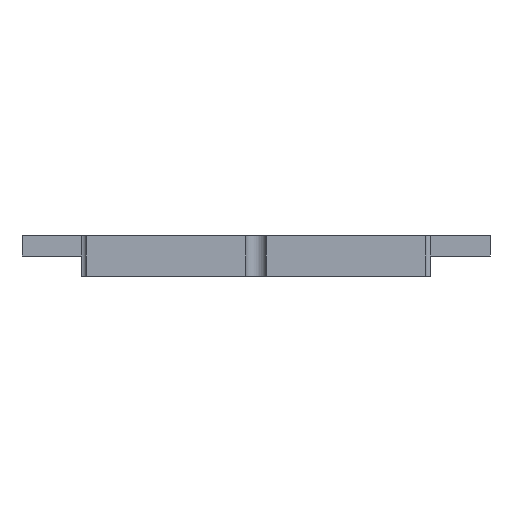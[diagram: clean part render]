
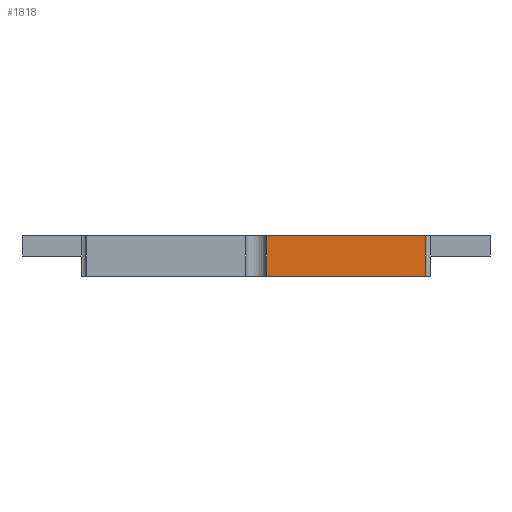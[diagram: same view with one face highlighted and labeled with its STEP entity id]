
A CAD part, front view. The second image highlights one B-rep face of the part: STEP entity #1818.
In plain terms, the highlighted planar face has unit normal (0, -1, 0).
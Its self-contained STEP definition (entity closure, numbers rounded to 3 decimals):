
#44 = EDGE_CURVE ( 'NONE', #1125, #1079, #2046, .T. ) ;
#94 = EDGE_CURVE ( 'NONE', #1053, #1079, #1528, .T. ) ;
#128 = EDGE_CURVE ( 'NONE', #1053, #1031, #1881, .T. ) ;
#166 = EDGE_CURVE ( 'NONE', #1125, #1031, #1626, .T. ) ;
#298 = CARTESIAN_POINT ( 'NONE',  ( 1., 1.2, 2. ) ) ;
#311 = DIRECTION ( 'NONE',  ( 0., 0., -1. ) ) ;
#385 = DIRECTION ( 'NONE',  ( -1., 0., 0. ) ) ;
#398 = CARTESIAN_POINT ( 'NONE',  ( -17.1, 1.2, -2. ) ) ;
#412 = CARTESIAN_POINT ( 'NONE',  ( 1., 1.2, -2. ) ) ;
#417 = CARTESIAN_POINT ( 'NONE',  ( 1., 1.2, 2. ) ) ;
#466 = CARTESIAN_POINT ( 'NONE',  ( 16.6, 1.2, -2. ) ) ;
#495 = CARTESIAN_POINT ( 'NONE',  ( 16.6, 1.2, 2. ) ) ;
#572 = PLANE ( 'NONE',  #1760 ) ;
#575 = CARTESIAN_POINT ( 'NONE',  ( 17.1, 1.2, 2. ) ) ;
#576 = DIRECTION ( 'NONE',  ( -1., 0., 0. ) ) ;
#607 = DIRECTION ( 'NONE',  ( 0., 1., 0. ) ) ;
#860 = CARTESIAN_POINT ( 'NONE',  ( 16.6, 1.2, -2. ) ) ;
#866 = DIRECTION ( 'NONE',  ( 0., 0., 1. ) ) ;
#982 = CARTESIAN_POINT ( 'NONE',  ( 17.1, 1.2, 2. ) ) ;
#996 = DIRECTION ( 'NONE',  ( 1., 0., 0. ) ) ;
#1031 = VERTEX_POINT ( 'NONE', #412 ) ;
#1052 = EDGE_LOOP ( 'NONE', ( #1298, #1327, #1315, #1336 ) ) ;
#1053 = VERTEX_POINT ( 'NONE', #417 ) ;
#1079 = VERTEX_POINT ( 'NONE', #495 ) ;
#1125 = VERTEX_POINT ( 'NONE', #466 ) ;
#1298 = ORIENTED_EDGE ( 'NONE', *, *, #166, .F. ) ;
#1315 = ORIENTED_EDGE ( 'NONE', *, *, #94, .F. ) ;
#1327 = ORIENTED_EDGE ( 'NONE', *, *, #44, .T. ) ;
#1336 = ORIENTED_EDGE ( 'NONE', *, *, #128, .T. ) ;
#1518 = VECTOR ( 'NONE', #996, 1000. ) ;
#1528 = LINE ( 'NONE', #982, #1518 ) ;
#1626 = LINE ( 'NONE', #398, #1628 ) ;
#1628 = VECTOR ( 'NONE', #385, 1000. ) ;
#1694 = FACE_OUTER_BOUND ( 'NONE', #1052, .T. ) ;
#1760 = AXIS2_PLACEMENT_3D ( 'NONE', #575, #607, #576 ) ;
#1818 = ADVANCED_FACE ( 'NONE', ( #1694 ), #572, .F. ) ;
#1881 = LINE ( 'NONE', #298, #1890 ) ;
#1890 = VECTOR ( 'NONE', #311, 1000. ) ;
#2036 = VECTOR ( 'NONE', #866, 1000. ) ;
#2046 = LINE ( 'NONE', #860, #2036 ) ;
